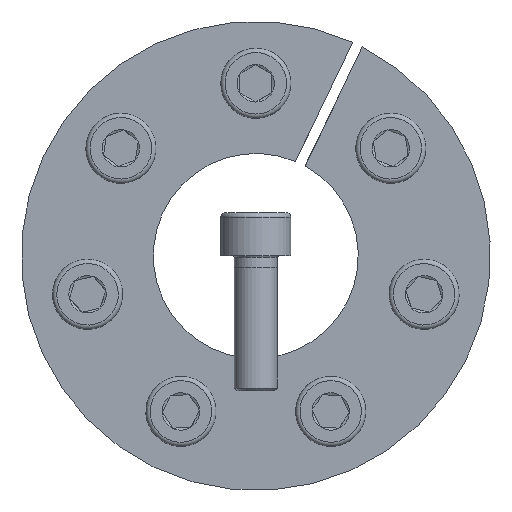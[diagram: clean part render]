
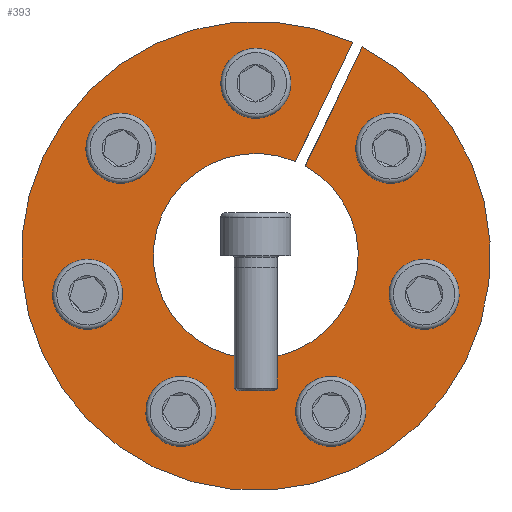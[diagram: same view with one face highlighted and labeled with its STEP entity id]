
A CAD part, front view. The second image highlights one B-rep face of the part: STEP entity #393.
In plain terms, the highlighted planar face has unit normal (0, -1, 0).
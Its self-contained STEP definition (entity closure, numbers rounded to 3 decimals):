
#393 = ADVANCED_FACE( '', ( #648, #649, #650, #651, #652, #653, #654, #655 ), #656, .F. );
#648 = FACE_OUTER_BOUND( '', #802, .T. );
#649 = FACE_BOUND( '', #803, .T. );
#650 = FACE_BOUND( '', #804, .T. );
#651 = FACE_BOUND( '', #805, .T. );
#652 = FACE_BOUND( '', #806, .T. );
#653 = FACE_BOUND( '', #807, .T. );
#654 = FACE_BOUND( '', #808, .T. );
#655 = FACE_BOUND( '', #809, .T. );
#656 = PLANE( '', #810 );
#802 = EDGE_LOOP( '', ( #1058, #1059, #1060, #1061 ) );
#803 = EDGE_LOOP( '', ( #1062 ) );
#804 = EDGE_LOOP( '', ( #1063 ) );
#805 = EDGE_LOOP( '', ( #1064 ) );
#806 = EDGE_LOOP( '', ( #1065 ) );
#807 = EDGE_LOOP( '', ( #1066 ) );
#808 = EDGE_LOOP( '', ( #1067 ) );
#809 = EDGE_LOOP( '', ( #1068 ) );
#810 = AXIS2_PLACEMENT_3D( '', #1069, #1070, #1071 );
#1058 = ORIENTED_EDGE( '', *, *, #1285, .T. );
#1059 = ORIENTED_EDGE( '', *, *, #1232, .T. );
#1060 = ORIENTED_EDGE( '', *, *, #1246, .T. );
#1061 = ORIENTED_EDGE( '', *, *, #1283, .F. );
#1062 = ORIENTED_EDGE( '', *, *, #1281, .F. );
#1063 = ORIENTED_EDGE( '', *, *, #1273, .F. );
#1064 = ORIENTED_EDGE( '', *, *, #1274, .F. );
#1065 = ORIENTED_EDGE( '', *, *, #1266, .F. );
#1066 = ORIENTED_EDGE( '', *, *, #1264, .F. );
#1067 = ORIENTED_EDGE( '', *, *, #1267, .F. );
#1068 = ORIENTED_EDGE( '', *, *, #1271, .F. );
#1069 = CARTESIAN_POINT( '', ( 0., 0., 43.5 ) );
#1070 = DIRECTION( '', ( 0., 1., 0. ) );
#1071 = DIRECTION( '', ( 1., 0., 0. ) );
#1232 = EDGE_CURVE( '', #1351, #1355, #1357, .T. );
#1246 = EDGE_CURVE( '', #1355, #1381, #1383, .T. );
#1264 = EDGE_CURVE( '', #1416, #1416, #1417, .T. );
#1266 = EDGE_CURVE( '', #1420, #1420, #1421, .T. );
#1267 = EDGE_CURVE( '', #1422, #1422, #1423, .T. );
#1271 = EDGE_CURVE( '', #1429, #1429, #1430, .T. );
#1273 = EDGE_CURVE( '', #1433, #1433, #1434, .T. );
#1274 = EDGE_CURVE( '', #1435, #1435, #1436, .T. );
#1281 = EDGE_CURVE( '', #1447, #1447, #1448, .T. );
#1283 = EDGE_CURVE( '', #1450, #1381, #1452, .T. );
#1285 = EDGE_CURVE( '', #1450, #1351, #1454, .T. );
#1351 = VERTEX_POINT( '', #1457 );
#1355 = VERTEX_POINT( '', #1462 );
#1357 = CIRCLE( '', #1465, 43.5 );
#1381 = VERTEX_POINT( '', #1499 );
#1383 = LINE( '', #1502, #1503 );
#1416 = VERTEX_POINT( '', #1538 );
#1417 = CIRCLE( '', #1539, 4.5 );
#1420 = VERTEX_POINT( '', #1542 );
#1421 = CIRCLE( '', #1543, 4.5 );
#1422 = VERTEX_POINT( '', #1544 );
#1423 = CIRCLE( '', #1545, 4.5 );
#1429 = VERTEX_POINT( '', #1554 );
#1430 = CIRCLE( '', #1555, 4.5 );
#1433 = VERTEX_POINT( '', #1558 );
#1434 = CIRCLE( '', #1559, 4.5 );
#1435 = VERTEX_POINT( '', #1560 );
#1436 = CIRCLE( '', #1561, 4.5 );
#1447 = VERTEX_POINT( '', #1574 );
#1448 = CIRCLE( '', #1575, 4.5 );
#1450 = VERTEX_POINT( '', #1577 );
#1452 = CIRCLE( '', #1580, 19. );
#1454 = LINE( '', #1582, #1583 );
#1457 = CARTESIAN_POINT( '', ( 17.968, 0., 39.616 ) );
#1462 = CARTESIAN_POINT( '', ( 19.77, 0., 38.748 ) );
#1465 = AXIS2_PLACEMENT_3D( '', #1591, #1592, #1593 );
#1499 = CARTESIAN_POINT( '', ( 9.133, 0., 16.661 ) );
#1502 = CARTESIAN_POINT( '', ( 19.775, 0., 38.758 ) );
#1503 = VECTOR( '', #1614, 1000. );
#1538 = CARTESIAN_POINT( '', ( -17.939, 0., -26.879 ) );
#1539 = AXIS2_PLACEMENT_3D( '', #1662, #1663, #1664 );
#1542 = CARTESIAN_POINT( '', ( 9.83, 0., -30.783 ) );
#1543 = AXIS2_PLACEMENT_3D( '', #1668, #1669, #1670 );
#1544 = CARTESIAN_POINT( '', ( -32.199, 0., -2.733 ) );
#1545 = AXIS2_PLACEMENT_3D( '', #1671, #1672, #1673 );
#1554 = CARTESIAN_POINT( '', ( -22.213, 0., 23.47 ) );
#1555 = AXIS2_PLACEMENT_3D( '', #1680, #1681, #1682 );
#1558 = CARTESIAN_POINT( '', ( 27.824, 0., 16.433 ) );
#1559 = AXIS2_PLACEMENT_3D( '', #1686, #1687, #1688 );
#1560 = CARTESIAN_POINT( '', ( 30.196, 0., -11.508 ) );
#1561 = AXIS2_PLACEMENT_3D( '', #1689, #1690, #1691 );
#1574 = CARTESIAN_POINT( '', ( 4.5, 0., 32. ) );
#1575 = AXIS2_PLACEMENT_3D( '', #1706, #1707, #1708 );
#1577 = CARTESIAN_POINT( '', ( 7.331, 0., 17.529 ) );
#1580 = AXIS2_PLACEMENT_3D( '', #1710, #1711, #1712 );
#1582 = CARTESIAN_POINT( '', ( 7.331, 0., 17.529 ) );
#1583 = VECTOR( '', #1716, 1000. );
#1591 = CARTESIAN_POINT( '', ( 0., 0., 0. ) );
#1592 = DIRECTION( '', ( 0., -1., 0. ) );
#1593 = DIRECTION( '', ( 0., 0., -1. ) );
#1614 = DIRECTION( '', ( -0.434, 0., -0.901 ) );
#1662 = CARTESIAN_POINT( '', ( -13.884, 0., -28.831 ) );
#1663 = DIRECTION( '', ( 0., -1., 0. ) );
#1664 = DIRECTION( '', ( -0.901, 0., 0.434 ) );
#1668 = CARTESIAN_POINT( '', ( 13.884, 0., -28.831 ) );
#1669 = DIRECTION( '', ( 0., -1., 0. ) );
#1670 = DIRECTION( '', ( -0.901, 0., -0.434 ) );
#1671 = CARTESIAN_POINT( '', ( -31.198, 0., -7.121 ) );
#1672 = DIRECTION( '', ( 0., -1., 0. ) );
#1673 = DIRECTION( '', ( -0.223, 0., 0.975 ) );
#1680 = CARTESIAN_POINT( '', ( -25.019, 0., 19.952 ) );
#1681 = DIRECTION( '', ( 0., -1., 0. ) );
#1682 = DIRECTION( '', ( 0.623, 0., 0.782 ) );
#1686 = CARTESIAN_POINT( '', ( 25.019, 0., 19.952 ) );
#1687 = DIRECTION( '', ( 0., -1., 0. ) );
#1688 = DIRECTION( '', ( 0.623, 0., -0.782 ) );
#1689 = CARTESIAN_POINT( '', ( 31.198, 0., -7.121 ) );
#1690 = DIRECTION( '', ( 0., -1., 0. ) );
#1691 = DIRECTION( '', ( -0.223, 0., -0.975 ) );
#1706 = CARTESIAN_POINT( '', ( 0., 0., 32. ) );
#1707 = DIRECTION( '', ( 0., -1., 0. ) );
#1708 = DIRECTION( '', ( 1., 0., 0. ) );
#1710 = CARTESIAN_POINT( '', ( 0., 0., 0. ) );
#1711 = DIRECTION( '', ( 0., -1., 0. ) );
#1712 = DIRECTION( '', ( 0., 0., -1. ) );
#1716 = DIRECTION( '', ( 0.434, 0., 0.901 ) );
